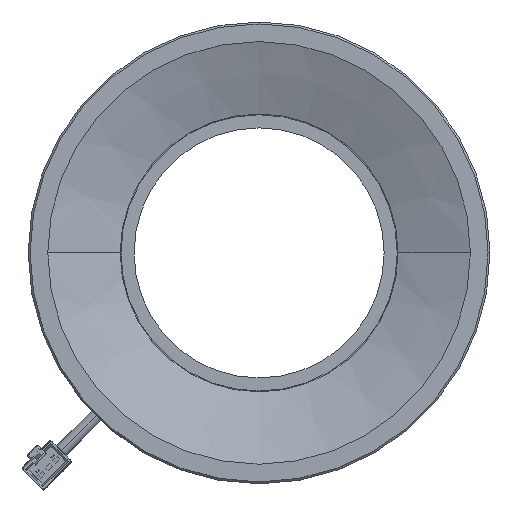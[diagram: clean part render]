
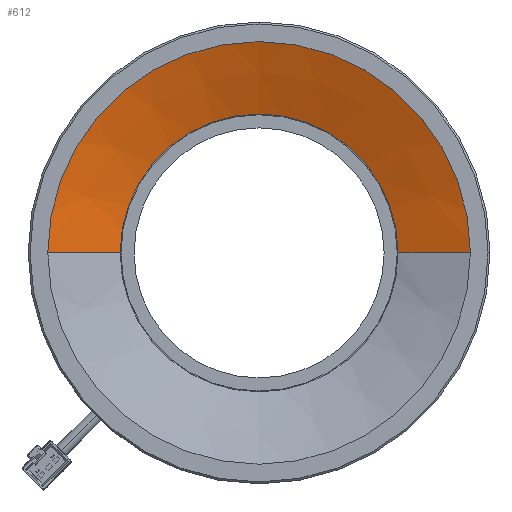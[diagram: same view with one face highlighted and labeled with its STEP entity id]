
A CAD part, front view. The second image highlights one B-rep face of the part: STEP entity #612.
In plain terms, the highlighted conical face has half-angle 70 degrees and reference radius 46.894 mm.
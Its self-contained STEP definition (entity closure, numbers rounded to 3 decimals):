
#1=DIRECTION('',(-0.94,-0.342,0.));
#2=VECTOR('',#1,23.);
#3=CARTESIAN_POINT('',(-36.087,-7.634,0.));
#4=LINE('',#3,#2);
#5=DIRECTION('',(0.94,-0.342,0.));
#6=VECTOR('',#5,23.);
#7=CARTESIAN_POINT('',(36.087,-7.634,0.));
#8=LINE('',#7,#6);
#14=CARTESIAN_POINT('',(0.,-7.634,0.));
#15=DIRECTION('',(0.,1.,0.));
#16=DIRECTION('',(-1.,0.,0.));
#17=AXIS2_PLACEMENT_3D('',#14,#15,#16);
#345=CARTESIAN_POINT('',(0.,-15.5,0.));
#346=DIRECTION('',(0.,-1.,0.));
#347=DIRECTION('',(1.,0.,0.));
#348=AXIS2_PLACEMENT_3D('',#345,#346,#347);
#469=CARTESIAN_POINT('',(-36.087,-7.634,0.));
#470=CARTESIAN_POINT('',(-57.7,-15.5,0.));
#471=VERTEX_POINT('',#469);
#472=VERTEX_POINT('',#470);
#473=CARTESIAN_POINT('',(57.7,-15.5,0.));
#474=VERTEX_POINT('',#473);
#475=CARTESIAN_POINT('',(36.087,-7.634,0.));
#476=VERTEX_POINT('',#475);
#597=CARTESIAN_POINT('',(0.,-11.567,0.));
#598=DIRECTION('',(0.,-1.,0.));
#599=DIRECTION('',(-1.,0.,0.));
#600=AXIS2_PLACEMENT_3D('',#597,#598,#599);
#601=CONICAL_SURFACE('',#600,46.894,70.);
#603=ORIENTED_EDGE('',*,*,#602,.T.);
#605=ORIENTED_EDGE('',*,*,#604,.F.);
#607=ORIENTED_EDGE('',*,*,#606,.F.);
#609=ORIENTED_EDGE('',*,*,#608,.F.);
#610=EDGE_LOOP('',(#603,#605,#607,#609));
#611=FACE_OUTER_BOUND('',#610,.F.);
#18=CIRCLE('',#17,36.087);
#349=CIRCLE('',#348,57.7);
#602=EDGE_CURVE('',#471,#472,#4,.T.);
#604=EDGE_CURVE('',#474,#472,#349,.T.);
#606=EDGE_CURVE('',#476,#474,#8,.T.);
#608=EDGE_CURVE('',#471,#476,#18,.T.);
#612=ADVANCED_FACE('',(#611),#601,.F.);
